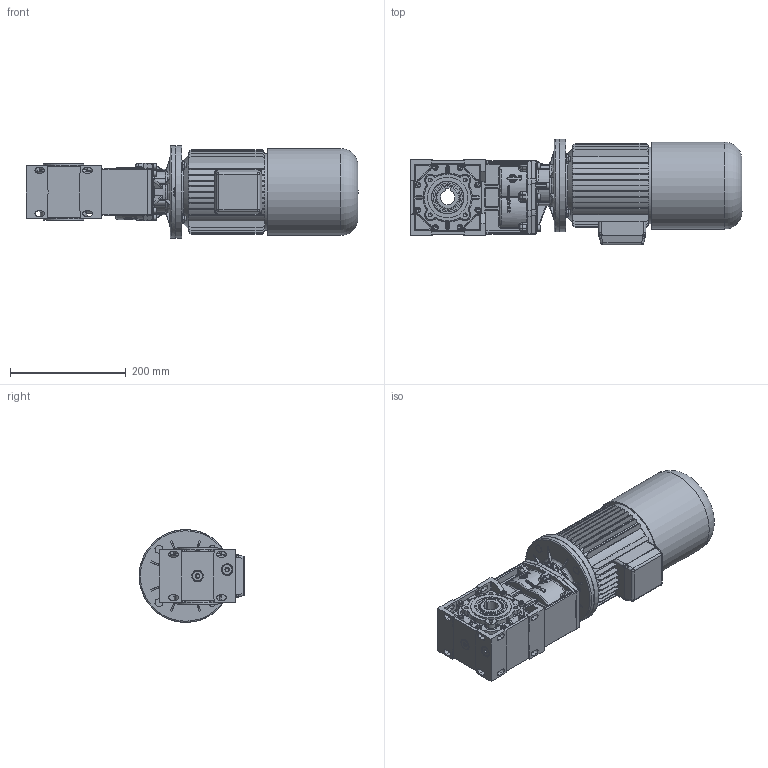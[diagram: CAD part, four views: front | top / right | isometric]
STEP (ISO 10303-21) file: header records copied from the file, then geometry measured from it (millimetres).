
FILE_DESCRIPTION((''),'2;1');
FILE_NAME('S:\Ghirri\3D\MO_RO10\Assiemi\MO10_2s-B5_71brake.stp','2006-02-01T14:56:13',('Stefano'),(''),'Autodesk Inventor 10','Autodesk Inventor 10','');
FILE_SCHEMA(('AUTOMOTIVE_DESIGN { 1 0 10303 214 1 1 1 1 }'));
Length unit declared in the file: millimetre
Products named in the file (17): MO10_2s-B5_71brake; Primario_MO10_2S; 3901001-A0; 3901002-A0; 3901003-A0; 3901009-A0; Paraolio-40-56-7; Guarnizione 1_4 GAS; Tappo 1_4 GAS; UNI 5931  M 6 x  20; UNI 8839 A 6; FM-40-50-D=160; UNI 5739  M8 x 25; UNI 5589  M8; UNI 6593 9 x 17; motori B5 brake 71
Assembly tree (52 placements, depth 3):
  MO10_2s-B5_71brake
    Primario_MO10_2S
      3901001-A0
      3901002-A0
      3901003-A0
      3901009-A0
      Paraolio-40-56-7  x2
      Guarnizione 1_4 GAS  x5
      Tappo 1_4 GAS  x5
      UNI 5931  M 6 x  20  x14
      UNI 8839 A 6  x6
    FM-40-50-D=160
      FM-40-50-D=160
      UNI 5739  M8 x 25  x4
      UNI 5589  M8  x4
      UNI 6593 9 x 17  x4
    motori B5 brake 71
Bounding box: 572.5 x 182 x 160 mm (x, y, z)
Volume: 4973621.8 mm3; surface area: 743273.6 mm2
Topology: 51 solids, 52 shells, 3498 faces, 8756 edges, 5410 vertices
Faces by surface type: plane 1403, cylinder 991, bspline 901, cone 153, torus 46, sphere 4
Full cylindrical faces by diameter (mm): 5 x3, 6 x14, 6.5 x14, 8 x4, 9 x4, 9.5 x4, 10 x14, 11.445 x1, 11.63 x4, 13 x10, 14 x1, 17 x4, 18 x5, 19 x5, 20 x1, 40 x4, 44 x2, 46 x2, 48 x1, 50 x2, 52 x2, 55 x2, 56 x4, 70 x2, 78 x1, 96.4 x1, 102 x3, 110 x3, 132 x1, 146 x1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
Entity records: 141249 total; most frequent: CARTESIAN_POINT 71749, ORIENTED_EDGE 14900, DIRECTION 13662, EDGE_CURVE 7450, AXIS2_PLACEMENT_3D 5207, VERTEX_POINT 4715, EDGE_LOOP 3393, VECTOR 3248
